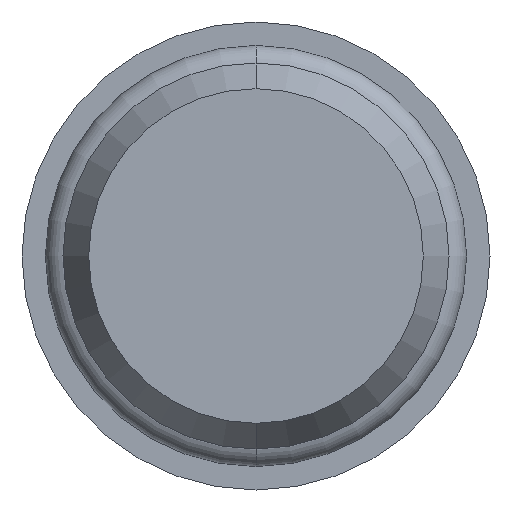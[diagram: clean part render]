
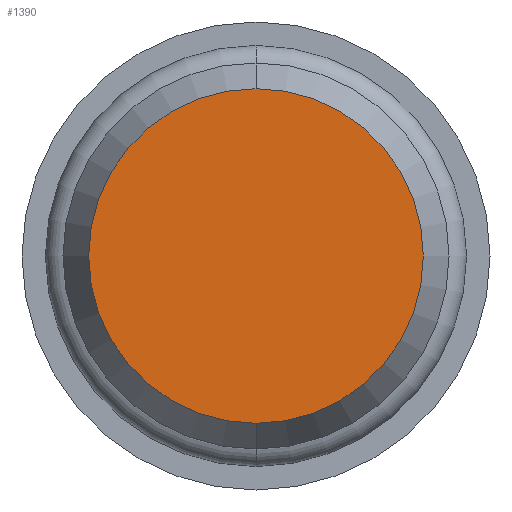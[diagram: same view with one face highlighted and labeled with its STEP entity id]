
A CAD part, front view. The second image highlights one B-rep face of the part: STEP entity #1390.
In plain terms, the highlighted planar face has unit normal (0, -1, 0).
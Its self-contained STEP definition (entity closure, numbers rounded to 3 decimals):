
#142 = DIRECTION ( 'NONE',  ( 0., -1., 0. ) ) ;
#159 = AXIS2_PLACEMENT_3D ( 'NONE', #1251, #242, #1409 ) ;
#198 = CIRCLE ( 'NONE', #1874, 7.15 ) ;
#242 = DIRECTION ( 'NONE',  ( 0., -1., 0. ) ) ;
#375 = VERTEX_POINT ( 'NONE', #1270 ) ;
#405 = EDGE_CURVE ( 'Defeature completata1_42+Defeature completata1_43+Defeature completata1_43+Defeature completata1_43', #375, #697, #198, .T. ) ;
#440 = CIRCLE ( 'NONE', #1891, 7.15 ) ;
#663 = DIRECTION ( 'NONE',  ( 0., -1., 0. ) ) ;
#666 = EDGE_CURVE ( 'Defeature completata1_42+Defeature completata1_43+Defeature completata1_43+Defeature completata1_43', #697, #375, #440, .T. ) ;
#695 = DIRECTION ( 'NONE',  ( 0., 0., -1. ) ) ;
#697 = VERTEX_POINT ( 'NONE', #1370 ) ;
#888 = EDGE_LOOP ( 'NONE', ( #1802, #1284 ) ) ;
#940 = DIRECTION ( 'NONE',  ( 0., 0., -1. ) ) ;
#1251 = CARTESIAN_POINT ( 'NONE',  ( 0., 0., 0. ) ) ;
#1270 = CARTESIAN_POINT ( 'NONE',  ( 0., 0., -7.15 ) ) ;
#1284 = ORIENTED_EDGE ( 'NONE', *, *, #405, .T. ) ;
#1370 = CARTESIAN_POINT ( 'NONE',  ( 0., 0., 7.15 ) ) ;
#1390 = ADVANCED_FACE ( 'Defeature completata1_42', ( #1975 ), #1908, .T. ) ;
#1409 = DIRECTION ( 'NONE',  ( 0., 0., -1. ) ) ;
#1629 = CARTESIAN_POINT ( 'NONE',  ( 0., 0., 0. ) ) ;
#1666 = CARTESIAN_POINT ( 'NONE',  ( 0., 0., 0. ) ) ;
#1802 = ORIENTED_EDGE ( 'NONE', *, *, #666, .T. ) ;
#1874 = AXIS2_PLACEMENT_3D ( 'NONE', #1666, #663, #940 ) ;
#1891 = AXIS2_PLACEMENT_3D ( 'NONE', #1629, #142, #695 ) ;
#1908 = PLANE ( 'NONE',  #159 ) ;
#1975 = FACE_OUTER_BOUND ( 'NONE', #888, .T. ) ;
